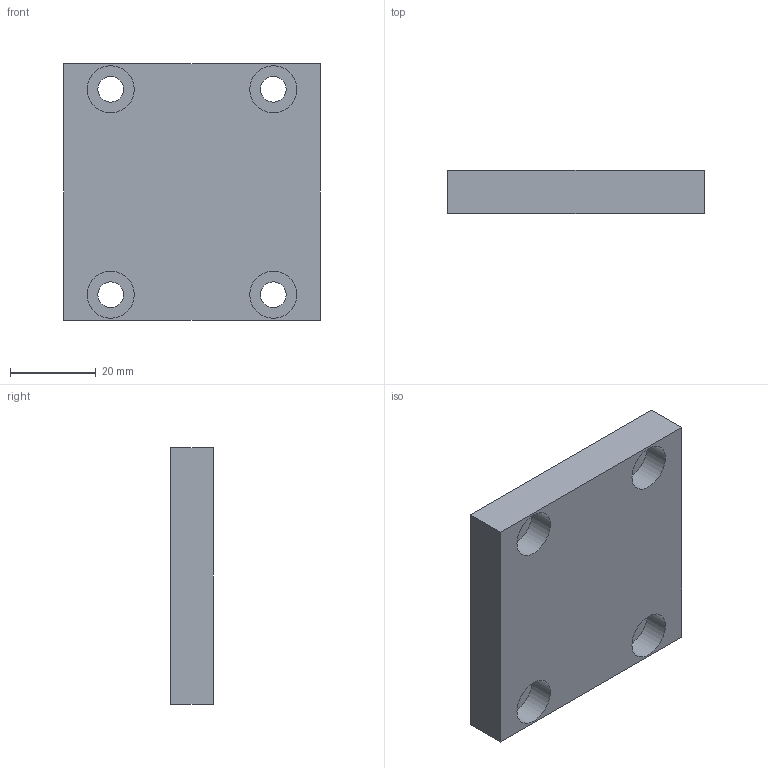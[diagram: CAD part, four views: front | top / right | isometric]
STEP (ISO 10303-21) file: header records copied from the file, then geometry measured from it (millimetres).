
FILE_DESCRIPTION(/* description */ (''),/* implementation_level */ '2;1');
FILE_NAME(/* name */ '091_tappo_manifold.stp',/* time_stamp */ '2020-01-13T11:17:02+01:00',/* author */ (''),/* organization */ (''),/* preprocessor_version */ 'ST-DEVELOPER v16.7',/* originating_system */ 'SIEMENS PLM Software NX 12.0',/* authorisation */ '');
FILE_SCHEMA (('AUTOMOTIVE_DESIGN { 1 0 10303 214 3 1 1 1 }'));
Length unit declared in the file: millimetre
Products named in the file (1): bez33CCFDAD1b3w
Bounding box: 60 x 10 x 60 mm (x, y, z)
Volume: 31517.6 mm3; surface area: 11379.4 mm2
Topology: 1 solids, 1 shells, 22 faces, 42 edges, 28 vertices
Faces by surface type: plane 12, cylinder 10
Full cylindrical faces by diameter (mm): 6 x4, 11 x4, 44 x1, 52 x1
Entity records: 564 total; most frequent: DIRECTION 98, CARTESIAN_POINT 83, ORIENTED_EDGE 64, EDGE_LOOP 46, AXIS2_PLACEMENT_3D 43, FACE_BOUND 41, EDGE_CURVE 32, VERTEX_POINT 28
